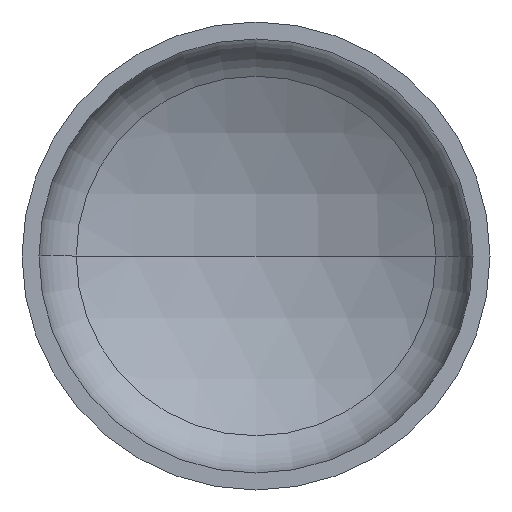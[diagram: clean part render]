
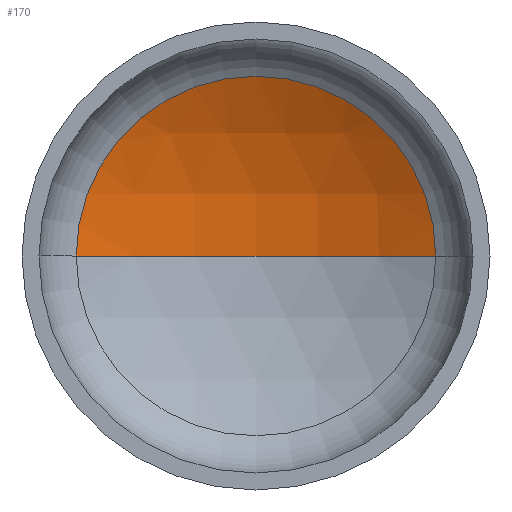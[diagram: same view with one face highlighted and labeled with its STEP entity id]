
A CAD part, front view. The second image highlights one B-rep face of the part: STEP entity #170.
In plain terms, the highlighted spherical face has radius 1280 mm.
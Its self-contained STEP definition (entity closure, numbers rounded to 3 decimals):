
#20 = AXIS2_PLACEMENT_3D ( 'NONE', #210, #145, #238 ) ;
#28 = VERTEX_POINT ( 'NONE', #286 ) ;
#30 = DIRECTION ( 'NONE',  ( -1., 0., 0. ) ) ;
#37 = AXIS2_PLACEMENT_3D ( 'NONE', #174, #124, #275 ) ;
#40 = AXIS2_PLACEMENT_3D ( 'NONE', #118, #224, #30 ) ;
#42 = ORIENTED_EDGE ( 'NONE', *, *, #121, .F. ) ;
#43 = AXIS2_PLACEMENT_3D ( 'NONE', #183, #202, #376 ) ;
#61 = VERTEX_POINT ( 'NONE', #225 ) ;
#64 = VERTEX_POINT ( 'NONE', #223 ) ;
#98 = EDGE_CURVE ( 'NONE', #64, #61, #135, .T. ) ;
#99 = EDGE_CURVE ( 'NONE', #28, #64, #394, .T. ) ;
#112 = ORIENTED_EDGE ( 'NONE', *, *, #98, .T. ) ;
#116 = ORIENTED_EDGE ( 'NONE', *, *, #99, .T. ) ;
#118 = CARTESIAN_POINT ( 'NONE',  ( 0., -787.863, 0. ) ) ;
#121 = EDGE_CURVE ( 'NONE', #28, #61, #328, .T. ) ;
#124 = DIRECTION ( 'NONE',  ( 0., 0., 1. ) ) ;
#135 = CIRCLE ( 'NONE', #43, 614.647 ) ;
#145 = DIRECTION ( 'NONE',  ( 0., 0., -1. ) ) ;
#166 = EDGE_LOOP ( 'NONE', ( #42, #116, #112 ) ) ;
#170 = ADVANCED_FACE ( 'NONE', ( #265 ), #380, .F. ) ;
#174 = CARTESIAN_POINT ( 'NONE',  ( 0., -787.863, 0. ) ) ;
#183 = CARTESIAN_POINT ( 'NONE',  ( 0., 334.905, 0. ) ) ;
#202 = DIRECTION ( 'NONE',  ( 0., -1., 0. ) ) ;
#210 = CARTESIAN_POINT ( 'NONE',  ( 0., -787.863, 0. ) ) ;
#223 = CARTESIAN_POINT ( 'NONE',  ( 614.647, 334.905, 0. ) ) ;
#224 = DIRECTION ( 'NONE',  ( 0., 0., -1. ) ) ;
#225 = CARTESIAN_POINT ( 'NONE',  ( -614.647, 334.905, 0. ) ) ;
#238 = DIRECTION ( 'NONE',  ( -1., 0., 0. ) ) ;
#265 = FACE_OUTER_BOUND ( 'NONE', #166, .T. ) ;
#275 = DIRECTION ( 'NONE',  ( 1., 0., 0. ) ) ;
#286 = CARTESIAN_POINT ( 'NONE',  ( 0., 492.137, 0. ) ) ;
#328 = CIRCLE ( 'NONE', #37, 1280. ) ;
#376 = DIRECTION ( 'NONE',  ( 1., 0., 0. ) ) ;
#380 = SPHERICAL_SURFACE ( 'NONE', #20, 1280. ) ;
#394 = CIRCLE ( 'NONE', #40, 1280. ) ;
